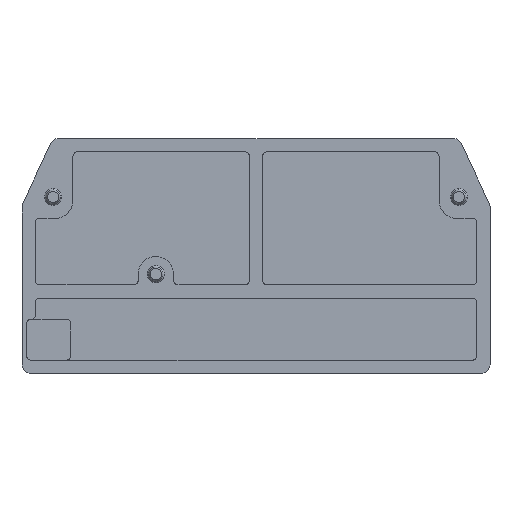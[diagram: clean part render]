
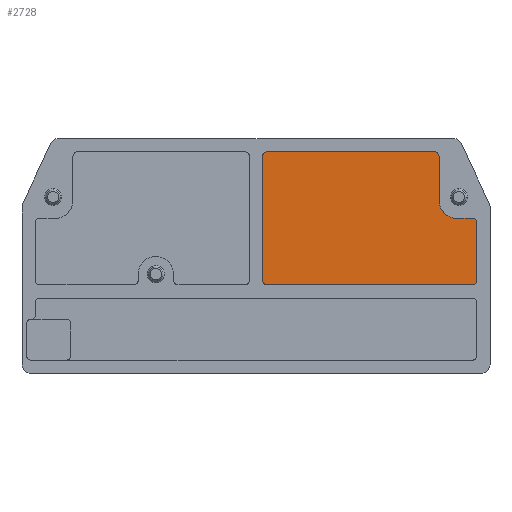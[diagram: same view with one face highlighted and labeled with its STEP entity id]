
A CAD part, top view. The second image highlights one B-rep face of the part: STEP entity #2728.
In plain terms, the highlighted planar face has unit normal (0, 0, 1).
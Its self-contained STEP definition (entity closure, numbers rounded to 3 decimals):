
#4 = DIRECTION ( 'NONE',  ( 0., 0., 1. ) ) ;
#10 = DIRECTION ( 'NONE',  ( 1., 0., 0. ) ) ;
#137 = VERTEX_POINT ( 'NONE', #2008 ) ;
#143 = CARTESIAN_POINT ( 'NONE',  ( 24.9, 10.5, 1. ) ) ;
#183 = CIRCLE ( 'NONE', #1390, 0.5 ) ;
#201 = CARTESIAN_POINT ( 'NONE',  ( 0.75, 10., 1. ) ) ;
#202 = EDGE_CURVE ( 'NONE', #878, #2266, #833, .T. ) ;
#251 = ORIENTED_EDGE ( 'NONE', *, *, #202, .T. ) ;
#252 = CARTESIAN_POINT ( 'NONE',  ( 24.4, 10.5, 1. ) ) ;
#294 = EDGE_CURVE ( 'NONE', #1946, #137, #1755, .T. ) ;
#308 = VERTEX_POINT ( 'NONE', #1645 ) ;
#374 = DIRECTION ( 'NONE',  ( 0., 0., 1. ) ) ;
#390 = VECTOR ( 'NONE', #832, 1000. ) ;
#415 = DIRECTION ( 'NONE',  ( 0., 0., 1. ) ) ;
#432 = LINE ( 'NONE', #1662, #390 ) ;
#446 = PLANE ( 'NONE',  #694 ) ;
#482 = ORIENTED_EDGE ( 'NONE', *, *, #823, .T. ) ;
#524 = ORIENTED_EDGE ( 'NONE', *, *, #1793, .T. ) ;
#566 = DIRECTION ( 'NONE',  ( -1., 0., 0. ) ) ;
#572 = CARTESIAN_POINT ( 'NONE',  ( 24.4, 10., 1. ) ) ;
#590 = LINE ( 'NONE', #1320, #1622 ) ;
#608 = CIRCLE ( 'NONE', #1822, 0.5 ) ;
#620 = ORIENTED_EDGE ( 'NONE', *, *, #2730, .T. ) ;
#693 = ORIENTED_EDGE ( 'NONE', *, *, #2676, .T. ) ;
#694 = AXIS2_PLACEMENT_3D ( 'NONE', #2334, #415, #2554 ) ;
#724 = CIRCLE ( 'NONE', #1244, 0.5 ) ;
#733 = AXIS2_PLACEMENT_3D ( 'NONE', #2547, #4, #1102 ) ;
#819 = DIRECTION ( 'NONE',  ( 1., 0., 0. ) ) ;
#823 = EDGE_CURVE ( 'NONE', #2266, #1806, #724, .T. ) ;
#832 = DIRECTION ( 'NONE',  ( 0., -1., 0. ) ) ;
#833 = LINE ( 'NONE', #1213, #929 ) ;
#853 = EDGE_CURVE ( 'NONE', #1806, #308, #432, .T. ) ;
#878 = VERTEX_POINT ( 'NONE', #1673 ) ;
#889 = EDGE_CURVE ( 'NONE', #2399, #1129, #1044, .T. ) ;
#929 = VECTOR ( 'NONE', #566, 1000. ) ;
#985 = EDGE_LOOP ( 'NONE', ( #2381, #1344, #2506, #693, #1655, #1071, #620, #524, #251, #482, #1887, #1287 ) ) ;
#1000 = DIRECTION ( 'NONE',  ( 1., 0., 0. ) ) ;
#1006 = EDGE_CURVE ( 'NONE', #2490, #1946, #590, .T. ) ;
#1044 = LINE ( 'NONE', #201, #1361 ) ;
#1049 = DIRECTION ( 'NONE',  ( 0., 0., -1. ) ) ;
#1053 = VERTEX_POINT ( 'NONE', #143 ) ;
#1071 = ORIENTED_EDGE ( 'NONE', *, *, #294, .T. ) ;
#1078 = CARTESIAN_POINT ( 'NONE',  ( 24.9, 10., 1. ) ) ;
#1102 = DIRECTION ( 'NONE',  ( 1., 0., 0. ) ) ;
#1126 = VERTEX_POINT ( 'NONE', #2242 ) ;
#1129 = VERTEX_POINT ( 'NONE', #572 ) ;
#1135 = CARTESIAN_POINT ( 'NONE',  ( 1.25, 25., 1. ) ) ;
#1155 = CARTESIAN_POINT ( 'NONE',  ( 24.9, 17., 1. ) ) ;
#1195 = CARTESIAN_POINT ( 'NONE',  ( 1.25, 24.5, 1. ) ) ;
#1213 = CARTESIAN_POINT ( 'NONE',  ( 16.9, 25., 1. ) ) ;
#1244 = AXIS2_PLACEMENT_3D ( 'NONE', #1195, #374, #1000 ) ;
#1279 = CIRCLE ( 'NONE', #733, 0.5 ) ;
#1284 = CARTESIAN_POINT ( 'NONE',  ( 20.65, 25., 1. ) ) ;
#1287 = ORIENTED_EDGE ( 'NONE', *, *, #1363, .T. ) ;
#1292 = CARTESIAN_POINT ( 'NONE',  ( 1.25, 10., 1. ) ) ;
#1320 = CARTESIAN_POINT ( 'NONE',  ( 24.9, 17.5, 1. ) ) ;
#1331 = LINE ( 'NONE', #1078, #2256 ) ;
#1344 = ORIENTED_EDGE ( 'NONE', *, *, #2501, .T. ) ;
#1349 = LINE ( 'NONE', #1284, #2422 ) ;
#1361 = VECTOR ( 'NONE', #10, 1000. ) ;
#1363 = EDGE_CURVE ( 'NONE', #308, #2399, #1279, .T. ) ;
#1390 = AXIS2_PLACEMENT_3D ( 'NONE', #252, #2341, #1805 ) ;
#1572 = FACE_OUTER_BOUND ( 'NONE', #985, .T. ) ;
#1622 = VECTOR ( 'NONE', #1965, 1000. ) ;
#1631 = AXIS2_PLACEMENT_3D ( 'NONE', #2720, #1049, #1667 ) ;
#1645 = CARTESIAN_POINT ( 'NONE',  ( 0.75, 10.5, 1. ) ) ;
#1655 = ORIENTED_EDGE ( 'NONE', *, *, #1006, .T. ) ;
#1662 = CARTESIAN_POINT ( 'NONE',  ( 0.75, 25., 1. ) ) ;
#1667 = DIRECTION ( 'NONE',  ( 1., 0., 0. ) ) ;
#1673 = CARTESIAN_POINT ( 'NONE',  ( 20.15, 25., 1. ) ) ;
#1755 = CIRCLE ( 'NONE', #1631, 2. ) ;
#1757 = CARTESIAN_POINT ( 'NONE',  ( 24.4, 17.5, 1. ) ) ;
#1793 = EDGE_CURVE ( 'NONE', #1126, #878, #1820, .T. ) ;
#1805 = DIRECTION ( 'NONE',  ( 1., 0., 0. ) ) ;
#1806 = VERTEX_POINT ( 'NONE', #1852 ) ;
#1820 = CIRCLE ( 'NONE', #2081, 0.5 ) ;
#1822 = AXIS2_PLACEMENT_3D ( 'NONE', #2315, #2376, #2365 ) ;
#1852 = CARTESIAN_POINT ( 'NONE',  ( 0.75, 24.5, 1. ) ) ;
#1877 = CARTESIAN_POINT ( 'NONE',  ( 20.15, 24.5, 1. ) ) ;
#1887 = ORIENTED_EDGE ( 'NONE', *, *, #853, .T. ) ;
#1941 = DIRECTION ( 'NONE',  ( 0., 1., 0. ) ) ;
#1946 = VERTEX_POINT ( 'NONE', #2362 ) ;
#1952 = VERTEX_POINT ( 'NONE', #1155 ) ;
#1965 = DIRECTION ( 'NONE',  ( -1., 0., 0. ) ) ;
#1976 = EDGE_CURVE ( 'NONE', #1053, #1952, #1331, .T. ) ;
#2008 = CARTESIAN_POINT ( 'NONE',  ( 20.65, 19.5, 1. ) ) ;
#2081 = AXIS2_PLACEMENT_3D ( 'NONE', #1877, #2095, #819 ) ;
#2095 = DIRECTION ( 'NONE',  ( 0., 0., 1. ) ) ;
#2242 = CARTESIAN_POINT ( 'NONE',  ( 20.65, 24.5, 1. ) ) ;
#2256 = VECTOR ( 'NONE', #1941, 1000. ) ;
#2266 = VERTEX_POINT ( 'NONE', #1135 ) ;
#2315 = CARTESIAN_POINT ( 'NONE',  ( 24.4, 17., 1. ) ) ;
#2319 = DIRECTION ( 'NONE',  ( 0., 1., 0. ) ) ;
#2334 = CARTESIAN_POINT ( 'NONE',  ( 0., 0., 1. ) ) ;
#2341 = DIRECTION ( 'NONE',  ( 0., 0., 1. ) ) ;
#2362 = CARTESIAN_POINT ( 'NONE',  ( 22.65, 17.5, 1. ) ) ;
#2365 = DIRECTION ( 'NONE',  ( 1., 0., 0. ) ) ;
#2376 = DIRECTION ( 'NONE',  ( 0., 0., 1. ) ) ;
#2381 = ORIENTED_EDGE ( 'NONE', *, *, #889, .T. ) ;
#2399 = VERTEX_POINT ( 'NONE', #1292 ) ;
#2422 = VECTOR ( 'NONE', #2319, 1000. ) ;
#2490 = VERTEX_POINT ( 'NONE', #1757 ) ;
#2501 = EDGE_CURVE ( 'NONE', #1129, #1053, #183, .T. ) ;
#2506 = ORIENTED_EDGE ( 'NONE', *, *, #1976, .T. ) ;
#2547 = CARTESIAN_POINT ( 'NONE',  ( 1.25, 10.5, 1. ) ) ;
#2554 = DIRECTION ( 'NONE',  ( 1., 0., 0. ) ) ;
#2676 = EDGE_CURVE ( 'NONE', #1952, #2490, #608, .T. ) ;
#2720 = CARTESIAN_POINT ( 'NONE',  ( 22.65, 19.5, 1. ) ) ;
#2728 = ADVANCED_FACE ( 'NONE', ( #1572 ), #446, .T. ) ;
#2730 = EDGE_CURVE ( 'NONE', #137, #1126, #1349, .T. ) ;
